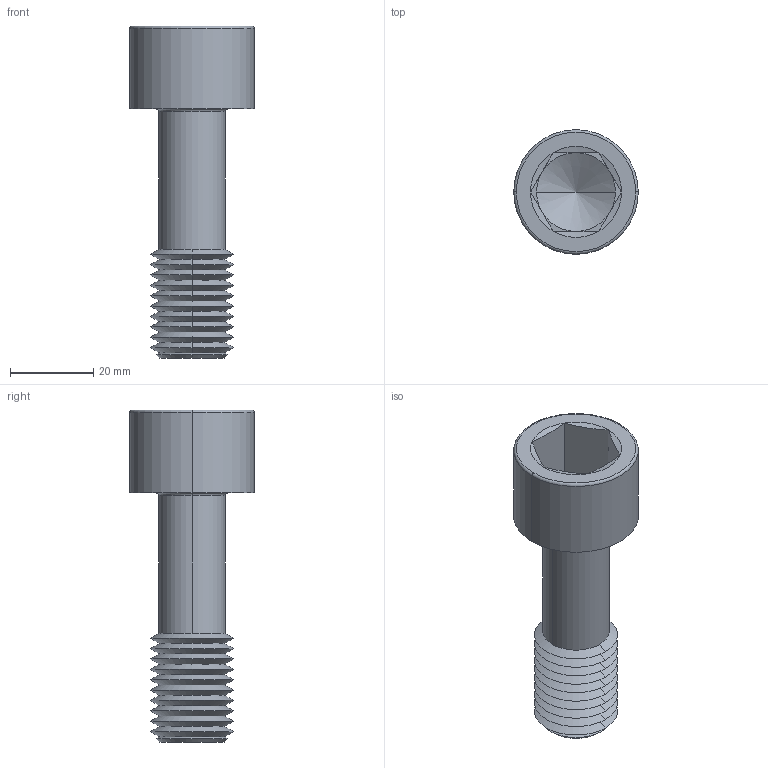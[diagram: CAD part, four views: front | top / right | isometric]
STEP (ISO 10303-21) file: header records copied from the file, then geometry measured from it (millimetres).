
FILE_DESCRIPTION (( 'STEP AP203' ), '1' );
FILE_NAME ('P0154.200-060-BL.step', '2024-06-17T11:40:05', ( '' ), ( '' ), 'SwSTEP 2.0', 'SolidWorks 2019', '' );
FILE_SCHEMA (( 'CONFIG_CONTROL_DESIGN' ));
Length unit declared in the file: millimetre
Products named in the file (1): P0154.200-060-BL
Bounding box: 30 x 30 x 80 mm (x, y, z)
Volume: 20994.5 mm3; surface area: 9131.3 mm2
Topology: 1 solids, 1 shells, 75 faces, 152 edges, 79 vertices
Faces by surface type: cone 52, plane 15, torus 4, cylinder 4
Entity records: 2011 total; most frequent: DIRECTION 372, CARTESIAN_POINT 355, ORIENTED_EDGE 300, AXIS2_PLACEMENT_3D 152, EDGE_CURVE 150, VERTEX_POINT 79, EDGE_LOOP 77, CIRCLE 76
